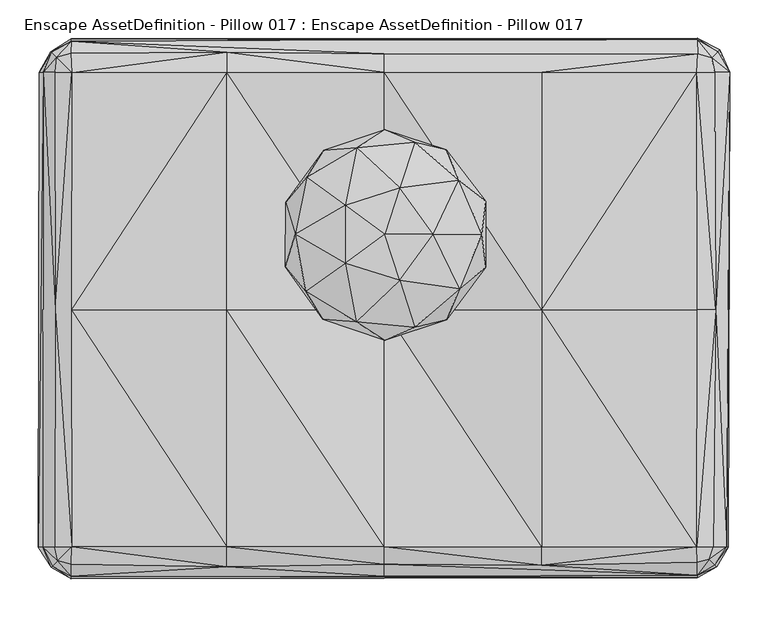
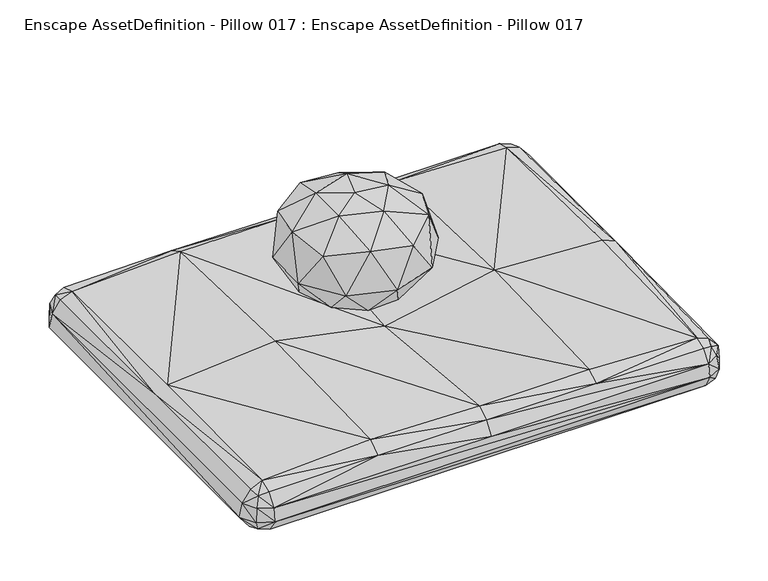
"""IFC4 building model written with IfcOpenShell, lengths in millimetres: geographic element geometry, Enscape AssetDefinition - Pillow 017 : Enscape AssetDefinition - Pillow 017."""

from ifc_helpers import new_model, si_unit, origin, place, context, project, spatial, triangles, source, transform, mapped, element, save


def enscape_assetdefinition_pillow_017_enscape_assetdefinition_b1578f92(model_context):
    return source(origin(), model_context, "Body", "Tessellation", [
        triangles([(-208.3552146, -313.4840266, 115.4808963), (-208.3551965, -1.9234153, 122.5196382), (-1.7396215, -1.9234153, 80.0687682), (204.8759757, -337.4730057, 96.4596645), (-1.7396215, -313.4319586, 109.2987791), (-1.7396215, -336.0223311, 95.0090718), (204.8759757, -313.4344657, 109.5959358), (408.7847139, -313.2081714, 101.328299), (409.2294179, -333.8514244, 92.8381741), (204.8759575, -1.9234153, 119.5538944), (-1.7396215, 309.5977449, 110.7969616), (204.8759757, 309.59244, 110.1668402), (-208.3552146, 335.9756043, 98.8091487), (-1.7396215, 352.9028415, 72.4731154), (-1.7396215, 334.1878864, 97.0214943), (-208.3552146, 309.6116612, 112.4498132), (-412.4617061, -1.9234153, 106.1849248), (-412.335442, 309.4326024, 103.6990482), (-434.1277891, 309.9256319, 94.058612), (-432.4350509, 329.5317389, 92.3654468), (-413.1561041, 334.5730373, 97.4066453), (-439.3121384, 336.4093351, 73.2668805), (-449.5065379, 309.6053753, 72.4390468), (-434.3170581, -313.7909846, 94.2478537), (-434.0748127, -1.9234153, 94.0054539), (-439.9074872, 337.004684, 45.9116825), (-454.8383709, 309.7657579, 46.6372741), (-432.5564824, 329.6531705, 26.7499547), (-436.053035, 310.1140652, 23.252848), (-456.3305763, -313.6575625, 46.5923641), (-412.7213559, 353.6846251, 46.5846293), (-412.6314995, 350.700396, 72.5623496), (-412.3018684, 309.3991742, 16.6517759), (-437.5295437, -314.105464, 21.7764665), (-413.1080329, 334.0813159, 22.3218025), (409.8529263, 336.3735088, 20.0296481), (409.2736739, 354.7445168, 46.5527226), (438.7860077, 339.3626796, 45.6809235), (430.9208264, 331.4978617, 24.9053021), (433.3260939, 310.1876799, 22.500389), (408.8741707, -313.2977008, 14.9331626), (408.8908121, 309.4675203, 14.3782762), (452.204847, 309.7913014, 46.6118033), (448.3534106, -313.5221784, 72.5090643), (436.0713841, 336.6480924, 73.2902348), (409.2048554, 352.4611533, 72.6153623), (451.6818048, 309.7755321, 72.6092535), (432.5578631, 310.1125754, 95.9681702), (428.5696255, 329.1468787, 91.9806047), (408.8670127, 309.4437572, 104.0681482), (409.6287758, 334.08415, 96.9177761), (433.795978, -1.9234153, 97.2061397), (408.997855, -1.9234153, 108.0341488), (430.1201849, -313.7208581, 93.5305465), (425.3757434, -329.8000365, 88.7868589), (409.0335723, -350.6115569, 72.4438884), (409.1270986, -353.7199064, 46.6993616), (432.1554894, -336.5791286, 72.907046), (450.1781176, -313.5770805, 46.6728188), (435.0177784, -339.4415628, 46.049651), (433.1057221, -314.0131368, 22.7205245), (409.7182325, -338.8460323, 21.4039806), (430.0436997, -334.4676659, 25.7823266), (-412.3468875, -313.2909788, 15.1571303), (-412.6477412, -355.0877735, 46.6581895), (-432.481596, -333.4251423, 26.8247389), (-413.1447676, -338.3037326, 21.9462917), (-438.0059681, -338.9500231, 73.1390586), (-450.4609855, -313.4809381, 72.4677741), (-439.3473106, -340.291402, 45.9664939), (-430.7146617, -331.658099, 90.6449395), (-412.9627293, -336.4447618, 95.4315205), (-412.3626205, -313.3067845, 104.6054973), (-208.3552146, -339.2911723, 98.2778857), (-412.5445862, -351.6617108, 72.4754999), (-1.7396215, -351.9090068, 72.4322794), (-1.0993779, 97.1086347, 286.7639279), (-53.1640741, 59.2814515, 280.5905947), (18.7052899, 158.0613369, 280.1598616), (-53.13363, 134.9136673, 280.5296428), (-38.0171653, 210.7298698, 250.2968951), (-103.7793304, 171.7099769, 239.9210205), (-118.7693584, 97.1086257, 249.1853896), (-81.2384733, 207.4105957, 176.4613402), (38.1412039, 217.8787431, 239.95394), (79.5069747, 208.0537614, 176.4613402), (-1.0993801, 234.2042909, 176.4613402), (-105.6612104, 97.1086257, 124.1804471), (-132.0263889, 54.5678493, 176.4613402), (-131.3611861, 139.4332315, 176.4613402), (-77.8107302, 152.842869, 117.8591214), (-11.7816301, 129.9852254, 120.5282172), (-33.4456534, 196.6601073, 124.1240097), (31.050562, 120.4668474, 112.1614314), (-1.0993779, 97.1086347, 100.9572915), (-35.7215955, 97.1086257, 120.4412585), (-77.8866158, 41.3194392, 117.8011308), (-13.9803399, 57.4650698, 109.0155297), (34.2118221, 71.4535919, 105.8389703), (93.0880044, 97.1086257, 118.2503584), (28.4449593, 6.1805809, 117.3726686), (80.558146, -15.2832888, 176.4613402), (-33.7858465, -3.4900969, 123.573471), (-1.0993425, -41.9548655, 176.4613402), (84.8418326, 34.6686846, 123.3467679), (97.1887625, 25.6981294, 251.5468007), (131.8113494, 53.9233074, 176.4613402), (131.5425613, 140.2066218, 176.4613402), (38.5595014, -24.9487747, 240.6307155), (-38.4166595, -17.7421947, 251.0959561), (18.6177044, 36.4256609, 279.701314), (-82.3952341, -14.785563, 176.4613402), (-104.500253, 21.9834828, 240.3665965), (62.7077004, 97.1086347, 279.7032579), (96.3043052, 167.8765626, 250.8711152), (126.3595564, 97.1086347, 240.1908078), (27.9930043, 186.6457113, 118.2765923), (84.193689, 159.0778082, 123.747343)], [[94, 118, 100], [94, 117, 118], [108, 100, 118], [118, 86, 108], [86, 118, 117], [86, 115, 108], [108, 115, 116], [114, 116, 115], [89, 113, 83], [113, 89, 112], [78, 83, 113], [112, 110, 113], [78, 113, 110], [78, 110, 111], [111, 110, 109], [114, 106, 116], [111, 106, 114], [111, 109, 106], [107, 116, 106], [107, 100, 108], [116, 107, 108], [107, 105, 100], [102, 106, 109], [107, 106, 102], [105, 107, 102], [104, 110, 112], [104, 109, 110], [109, 104, 102], [103, 104, 112], [102, 101, 105], [104, 101, 102], [104, 103, 101], [99, 100, 105], [94, 100, 99], [99, 105, 101], [95, 94, 99], [98, 101, 103], [99, 101, 98], [95, 99, 98], [98, 103, 97], [112, 97, 103], [89, 97, 112], [89, 88, 97], [96, 97, 88], [98, 97, 96], [95, 98, 96], [95, 96, 92], [92, 117, 94], [95, 92, 94], [92, 93, 117], [92, 91, 93], [96, 91, 92], [96, 88, 91], [89, 83, 90], [88, 89, 90], [90, 91, 88], [90, 83, 82], [84, 91, 90], [84, 93, 91], [82, 84, 90], [93, 84, 87], [87, 117, 93], [86, 117, 87], [86, 85, 115], [85, 86, 87], [87, 81, 85], [84, 81, 87], [84, 82, 81], [80, 83, 78], [80, 82, 83], [80, 81, 82], [79, 81, 80], [79, 85, 81], [79, 115, 85], [114, 115, 79], [77, 111, 114], [77, 78, 111], [77, 80, 78], [77, 79, 80], [77, 114, 79], [57, 76, 75], [74, 75, 76], [75, 74, 72], [73, 72, 74], [75, 72, 71], [71, 72, 73], [73, 24, 71], [71, 24, 69], [69, 68, 71], [71, 68, 75], [70, 68, 69], [69, 30, 70], [75, 65, 57], [68, 70, 65], [65, 75, 68], [66, 70, 30], [30, 34, 66], [65, 70, 66], [66, 34, 64], [66, 67, 65], [64, 67, 66], [62, 57, 65], [65, 67, 62], [41, 62, 67], [67, 64, 41], [57, 62, 63], [63, 62, 41], [41, 61, 63], [63, 61, 59], [59, 60, 63], [63, 60, 57], [58, 60, 59], [59, 44, 58], [57, 56, 76], [60, 58, 56], [56, 57, 60], [55, 58, 44], [55, 9, 56], [56, 58, 55], [8, 9, 55], [44, 54, 55], [55, 54, 8], [52, 53, 8], [8, 54, 52], [52, 54, 44], [52, 48, 50], [50, 53, 52], [51, 46, 14], [46, 51, 49], [49, 51, 50], [50, 48, 49], [47, 48, 52], [44, 47, 52], [49, 48, 47], [49, 45, 46], [47, 45, 49], [38, 45, 47], [47, 43, 38], [44, 59, 43], [43, 47, 44], [40, 43, 59], [59, 61, 40], [40, 61, 41], [42, 41, 64], [41, 42, 40], [39, 38, 43], [43, 40, 39], [39, 40, 42], [45, 38, 37], [37, 46, 45], [37, 38, 39], [39, 36, 37], [42, 36, 39], [37, 36, 35], [64, 33, 42], [33, 35, 36], [36, 42, 33], [33, 64, 34], [34, 29, 33], [28, 35, 33], [33, 29, 28], [35, 31, 37], [31, 14, 46], [46, 37, 31], [31, 35, 28], [31, 32, 14], [32, 31, 26], [28, 26, 31], [34, 30, 27], [27, 29, 34], [28, 29, 27], [27, 26, 28], [22, 26, 27], [26, 22, 32], [27, 23, 22], [23, 27, 30], [30, 69, 23], [69, 24, 25], [23, 69, 25], [25, 24, 73], [73, 17, 25], [25, 19, 23], [20, 22, 23], [23, 19, 20], [32, 22, 20], [20, 21, 32], [25, 17, 18], [18, 19, 25], [20, 19, 18], [18, 21, 20], [16, 18, 17], [32, 21, 13], [13, 21, 18], [18, 16, 13], [15, 14, 32], [32, 13, 15], [14, 15, 51], [12, 51, 15], [12, 50, 51], [15, 11, 12], [11, 15, 13], [13, 16, 11], [10, 12, 11], [10, 53, 50], [50, 12, 10], [8, 53, 10], [11, 3, 10], [3, 11, 16], [7, 10, 3], [10, 7, 8], [56, 9, 4], [4, 9, 8], [8, 7, 4], [6, 76, 56], [56, 4, 6], [76, 6, 74], [3, 5, 7], [5, 6, 4], [4, 7, 5], [16, 2, 3], [5, 3, 2], [17, 2, 16], [6, 5, 1], [1, 74, 6], [2, 1, 5], [74, 1, 73], [17, 73, 1], [1, 2, 17]]),
    ])


if __name__ == "__main__":
    model = new_model("IFC4")
    model_context = context("Model", 3, world=origin())
    ifc_project = project(units=[si_unit("LENGTHUNIT", "METRE", prefix="MILLI")], contexts=[model_context])
    site = spatial("IfcSite", under=ifc_project)
    building = spatial("IfcBuilding", under=site)
    placement = place(None, origin())
    enscape_assetdefinition_pillow_017_enscape_assetdefinition_shape = enscape_assetdefinition_pillow_017_enscape_assetdefinition_b1578f92(model_context)
    element("IfcGeographicElement", 1, ObjectType="Enscape AssetDefinition - Pillow 017 : Enscape AssetDefinition - Pillow 017", at=placement, inside=building, context=model_context, shape_type="MappedRepresentation", body=[
        mapped(enscape_assetdefinition_pillow_017_enscape_assetdefinition_shape, transform((0.0, 0.0, 0.0), x_axis=(1.0, 0.0, 0.0), y_axis=(0.0, 1.0, 0.0), z_axis=(0.0, 0.0, 1.0))),
    ])
    save(model, "model.ifc")
